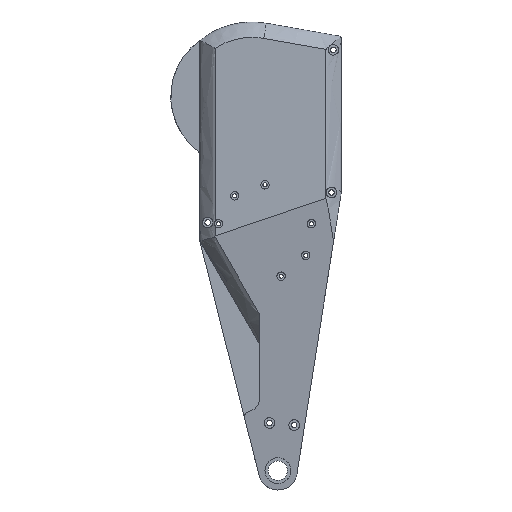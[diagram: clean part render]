
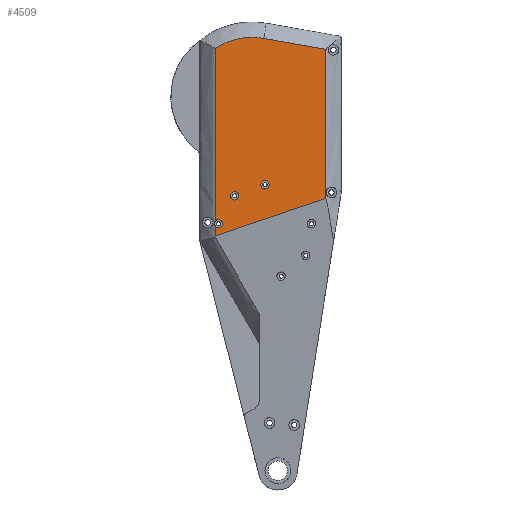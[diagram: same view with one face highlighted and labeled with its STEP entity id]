
A CAD part, left-side view. The second image highlights one B-rep face of the part: STEP entity #4509.
In plain terms, the highlighted planar face has unit normal (-1, 0, 0).
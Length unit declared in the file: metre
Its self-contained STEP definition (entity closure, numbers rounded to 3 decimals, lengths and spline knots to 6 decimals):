
#111=PLANE('',#4845);
#281=LINE('',#7868,#571);
#571=VECTOR('',#5597,1.);
#812=CIRCLE('',#4846,0.00325);
#813=CIRCLE('',#4847,0.00325);
#814=CIRCLE('',#4848,0.00325);
#1307=ORIENTED_EDGE('',*,*,#2514,.F.);
#1308=ORIENTED_EDGE('',*,*,#2650,.F.);
#1309=ORIENTED_EDGE('',*,*,#2512,.F.);
#1310=ORIENTED_EDGE('',*,*,#2651,.F.);
#1311=ORIENTED_EDGE('',*,*,#2525,.F.);
#1312=ORIENTED_EDGE('',*,*,#2518,.F.);
#1313=ORIENTED_EDGE('',*,*,#2652,.F.);
#1314=ORIENTED_EDGE('',*,*,#2653,.F.);
#1315=ORIENTED_EDGE('',*,*,#2654,.F.);
#2512=EDGE_CURVE('',#3191,#3192,#3593,.T.);
#2514=EDGE_CURVE('',#3193,#3187,#3595,.T.);
#2518=EDGE_CURVE('',#3197,#3198,#3599,.T.);
#2525=EDGE_CURVE('',#3198,#3203,#3606,.T.);
#2650=EDGE_CURVE('',#3192,#3193,#812,.T.);
#2651=EDGE_CURVE('',#3203,#3191,#281,.T.);
#2652=EDGE_CURVE('',#3187,#3197,#3648,.T.);
#2653=EDGE_CURVE('',#3302,#3302,#813,.T.);
#2654=EDGE_CURVE('',#3303,#3303,#814,.T.);
#3187=VERTEX_POINT('',#7042);
#3191=VERTEX_POINT('',#7099);
#3192=VERTEX_POINT('',#7104);
#3193=VERTEX_POINT('',#7114);
#3197=VERTEX_POINT('',#7179);
#3198=VERTEX_POINT('',#7184);
#3203=VERTEX_POINT('',#7276);
#3302=VERTEX_POINT('',#7875);
#3303=VERTEX_POINT('',#7877);
#3593=B_SPLINE_CURVE_WITH_KNOTS('',3,(#7100,#7101,#7102,#7103),
 .UNSPECIFIED.,.F.,.F.,(4,4),(0.,0.050697),.UNSPECIFIED.);
#3595=B_SPLINE_CURVE_WITH_KNOTS('',3,(#7115,#7116,#7117,#7118),
 .UNSPECIFIED.,.F.,.F.,(4,4),(0.077801,1.),
 .UNSPECIFIED.);
#3599=B_SPLINE_CURVE_WITH_KNOTS('',3,(#7180,#7181,#7182,#7183),
 .UNSPECIFIED.,.F.,.F.,(4,4),(0.,1.),.UNSPECIFIED.);
#3606=B_SPLINE_CURVE_WITH_KNOTS('',3,(#7272,#7273,#7274,#7275),
 .UNSPECIFIED.,.F.,.F.,(4,4),(0.,1.),
 .UNSPECIFIED.);
#3648=B_SPLINE_CURVE_WITH_KNOTS('',3,(#7869,#7870,#7871,#7872,#7873),
 .UNSPECIFIED.,.F.,.F.,(4,1,4),(0.,0.5,1.),.UNSPECIFIED.);
#3725=EDGE_LOOP('',(#1307,#1308,#1309,#1310,#1311,#1312,#1313));
#3726=EDGE_LOOP('',(#1314));
#3727=EDGE_LOOP('',(#1315));
#4047=FACE_BOUND('',#3725,.T.);
#4048=FACE_BOUND('',#3726,.T.);
#4049=FACE_BOUND('',#3727,.T.);
#4509=ADVANCED_FACE('',(#4047,#4048,#4049),#111,.F.);
#4845=AXIS2_PLACEMENT_3D('',#7866,#5593,#5594);
#4846=AXIS2_PLACEMENT_3D('',#7867,#5595,#5596);
#4847=AXIS2_PLACEMENT_3D('',#7874,#5598,#5599);
#4848=AXIS2_PLACEMENT_3D('',#7876,#5600,#5601);
#5593=DIRECTION('',(1.,0.,0.));
#5594=DIRECTION('',(0.,-1.,0.));
#5595=DIRECTION('',(-1.,0.,0.));
#5596=DIRECTION('',(0.,0.,1.));
#5597=DIRECTION('',(0.,0.947,-0.321));
#5598=DIRECTION('',(-1.,0.,0.));
#5599=DIRECTION('',(0.,0.,1.));
#5600=DIRECTION('',(-1.,0.,0.));
#5601=DIRECTION('',(0.,0.,1.));
#7042=CARTESIAN_POINT('',(-0.178,0.03553,-0.410621));
#7099=CARTESIAN_POINT('',(-0.178,0.03553,-0.556002));
#7100=CARTESIAN_POINT('',(-0.178,0.03553,-0.556002));
#7101=CARTESIAN_POINT('',(-0.178,0.03553,-0.553546));
#7102=CARTESIAN_POINT('',(-0.178,0.03553,-0.551089));
#7103=CARTESIAN_POINT('',(-0.178,0.03553,-0.548632));
#7104=CARTESIAN_POINT('',(-0.178,0.03553,-0.548632));
#7114=CARTESIAN_POINT('',(-0.178,0.03553,-0.544692));
#7115=CARTESIAN_POINT('',(-0.178,0.03553,-0.544692));
#7116=CARTESIAN_POINT('',(-0.178,0.03553,-0.500001));
#7117=CARTESIAN_POINT('',(-0.178,0.03553,-0.455311));
#7118=CARTESIAN_POINT('',(-0.178,0.03553,-0.410621));
#7179=CARTESIAN_POINT('',(-0.178,-0.001969,-0.402978));
#7180=CARTESIAN_POINT('',(-0.178,-0.001969,-0.402978));
#7181=CARTESIAN_POINT('',(-0.178,-0.01802,-0.405808));
#7182=CARTESIAN_POINT('',(-0.178,-0.03407,-0.408638));
#7183=CARTESIAN_POINT('',(-0.178,-0.050121,-0.411468));
#7184=CARTESIAN_POINT('',(-0.178,-0.050121,-0.411468));
#7272=CARTESIAN_POINT('',(-0.178,-0.050121,-0.411468));
#7273=CARTESIAN_POINT('',(-0.178,-0.050121,-0.449986));
#7274=CARTESIAN_POINT('',(-0.178,-0.050121,-0.488504));
#7275=CARTESIAN_POINT('',(-0.178,-0.050121,-0.527022));
#7276=CARTESIAN_POINT('',(-0.178,-0.050121,-0.527022));
#7866=CARTESIAN_POINT('',(-0.178,0.,-0.4015));
#7867=CARTESIAN_POINT('',(-0.178,0.032945,-0.546662));
#7868=CARTESIAN_POINT('',(-0.178,-0.043257,-0.529344));
#7869=CARTESIAN_POINT('',(-0.178,0.03553,-0.410621));
#7870=CARTESIAN_POINT('',(-0.178,0.030056,-0.40706));
#7871=CARTESIAN_POINT('',(-0.178,0.017754,-0.40202));
#7872=CARTESIAN_POINT('',(-0.178,0.004463,-0.401843));
#7873=CARTESIAN_POINT('',(-0.178,-0.001969,-0.402978));
#7874=CARTESIAN_POINT('',(-0.178,-0.003,-0.5165));
#7875=CARTESIAN_POINT('',(-0.178,-0.003,-0.51325));
#7876=CARTESIAN_POINT('',(-0.178,0.020462,-0.525039));
#7877=CARTESIAN_POINT('',(-0.178,0.020462,-0.521789));
